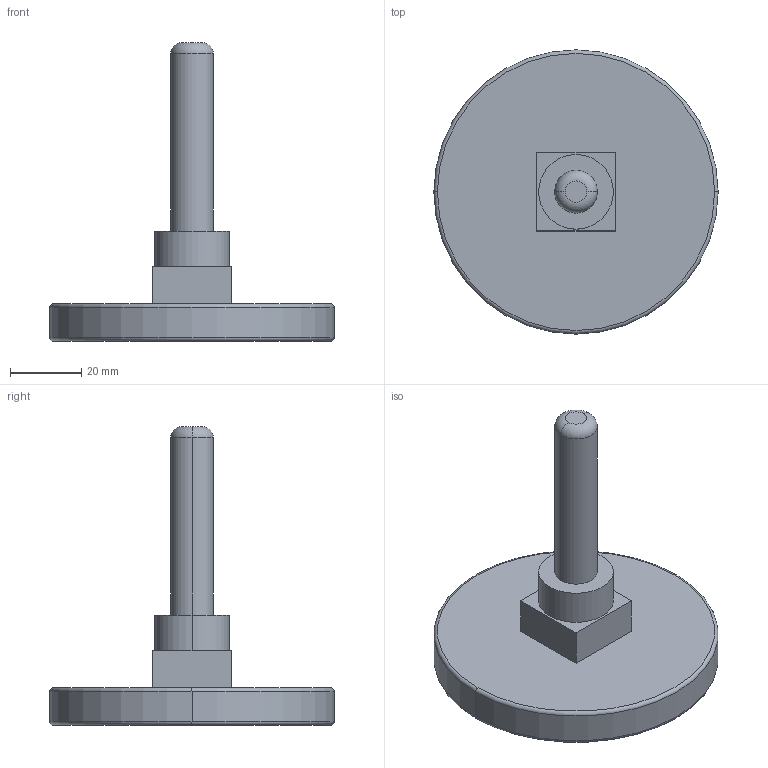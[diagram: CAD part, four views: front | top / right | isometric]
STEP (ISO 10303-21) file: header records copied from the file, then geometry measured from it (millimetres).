
FILE_DESCRIPTION (( 'STEP AP214' ), '1' );
FILE_NAME ('Termometr_bimetaliczny_x_0_3D_AFRISO.STEP', '2022-12-16T13:49:34', ( '' ), ( '' ), 'SwSTEP 2.0', 'SolidWorks 2022', '' );
FILE_SCHEMA (( 'AUTOMOTIVE_DESIGN' ));
Length unit declared in the file: millimetre
Products named in the file (1): Termometr_bimetaliczny_x_0_3D_AFRISO
Bounding box: 80 x 80 x 84 mm (x, y, z)
Volume: 67146.6 mm3; surface area: 16004.6 mm2
Topology: 1 solids, 1 shells, 21 faces, 42 edges, 26 vertices
Faces by surface type: plane 9, torus 6, cylinder 6
Entity records: 586 total; most frequent: DIRECTION 110, CARTESIAN_POINT 90, ORIENTED_EDGE 84, AXIS2_PLACEMENT_3D 46, EDGE_CURVE 42, VERTEX_POINT 26, CIRCLE 24, EDGE_LOOP 24
